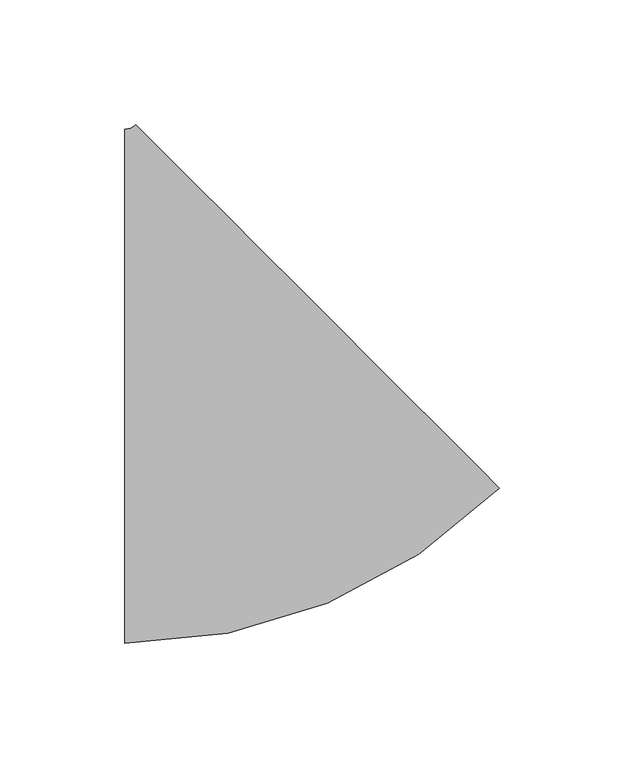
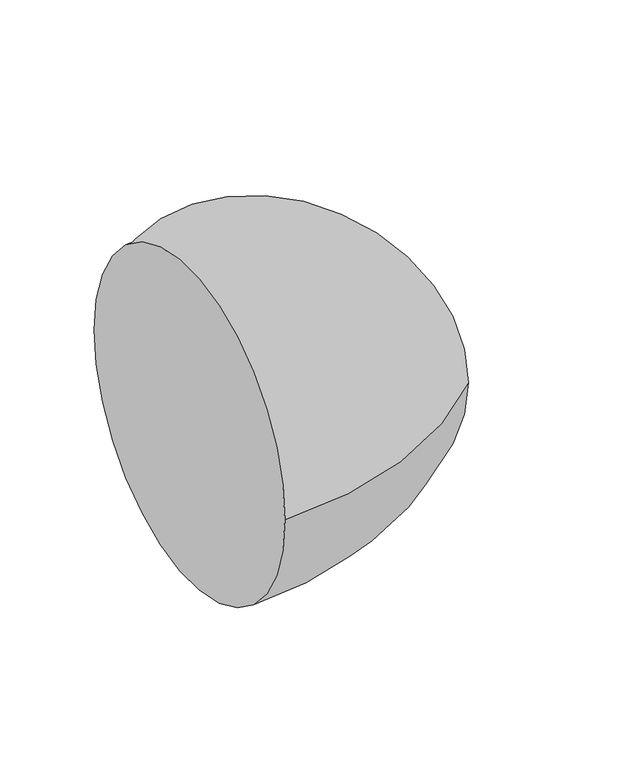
"""IFC4 building model written with IfcOpenShell, lengths in millimetres: pipe fitting geometry, M_Codo - Genérico : Estándar."""

from ifc_helpers import new_model, si_unit, point, frame, origin, place, context, project, spatial, circle_curve, ellipse_curve, trimmed, source, transform, mapped, element, save
from ifc_brep_helpers import plane_surface, revolved_surface, advanced_brep


def pipe_fitting_7e9b3de7(model_context):
    return source(origin(), model_context, "Body", "AdvancedBrep", [
        advanced_brep(
        [(-45.3694714, -103.1875, 0.0), (-45.3694714, 103.1875, 0.0), (105.0440829, -40.8875255, 0.0), (-40.8795146, 105.0472007, 0.0)],
        [
            (0, 1, circle_curve(frame((-45.3694714, 0.0, 0.0), z_axis=(-1.0, 0.0, 0.0), x_axis=(0.0, 1.0, 0.0)), 103.1875)),
            (1, 0, circle_curve(frame((-45.3694714, 0.0, 0.0), z_axis=(-1.0, 0.0, 0.0), x_axis=(0.0, 1.0, 0.0)), 103.1875)),
            (2, 3, circle_curve(frame((32.0822842, 32.0798376, 0.0), z_axis=(0.7071337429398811, 0.7070798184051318, 0.0), x_axis=(-0.7070798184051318, 0.7071337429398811, 0.0)), 103.1875)),
            (3, 2, circle_curve(frame((32.0822842, 32.0798376, 0.0), z_axis=(0.7071337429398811, 0.7070798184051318, 0.0), x_axis=(-0.7070798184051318, 0.7071337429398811, 0.0)), 103.1875)),
            (3, 1, circle_curve(frame((-45.3694714, 109.5375, 0.0), z_axis=(0.0, 0.0, -1.0), x_axis=(0.0, -1.0, 0.0)), 6.35)),
            (0, 2, circle_curve(frame((-45.3694714, 109.5375, 0.0), z_axis=(0.0, 0.0, 1.0), x_axis=(0.0, -1.0, 0.0)), 212.725)),
        ],
        [
            plane_surface(frame((-45.3694714, 0.0, 0.0), z_axis=(-1.0, 0.0, 0.0), x_axis=(0.0, 0.0, 1.0))),
            plane_surface(frame((32.0822842, 32.0798376, 0.0), z_axis=(0.7071337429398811, 0.7070798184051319, 0.0), x_axis=(0.0, 0.0, 1.0))),
            revolved_surface(trimmed(ellipse_curve(frame((-45.3694714, 0.0, 0.0), z_axis=(-1.0, 0.0, 0.0), x_axis=(0.0, 1.0, 0.0)), 103.1875, 103.1875), [point((-45.3694714, -103.1875, 0.0))], [point((-45.3694714, 103.1875, 0.0))], True, "CARTESIAN"), (-45.3694714, 109.5375, 0.0), (0.0, 0.0, 1.0)),
            revolved_surface(trimmed(ellipse_curve(frame((-45.3694714, 0.0, 0.0), z_axis=(-1.0, 0.0, 0.0), x_axis=(0.0, 1.0, 0.0)), 103.1875, 103.1875), [point((-45.3694714, 103.1875, 0.0))], [point((-45.3694714, -103.1875, 0.0))], True, "CARTESIAN"), (-45.3694714, 109.5375, 0.0), (0.0, 0.0, 1.0)),
        ],
        [
            (0, [[1, 2]]),
            (1, [[3, 4]]),
            (2, [[5, -1, 6, -4]]),
            (3, [[-6, -2, -5, -3]]),
        ],
    ),
    ])


if __name__ == "__main__":
    model = new_model("IFC4")
    model_context = context("Model", 3, world=origin())
    ifc_project = project(units=[si_unit("LENGTHUNIT", "METRE", prefix="MILLI")], contexts=[model_context])
    site = spatial("IfcSite", under=ifc_project)
    building = spatial("IfcBuilding", under=site)
    placement = place(None, origin())
    pipe_fitting_shape = pipe_fitting_7e9b3de7(model_context)
    element("IfcPipeFitting", 1, ObjectType="M_Codo - Genérico : Estándar", at=placement, inside=building, context=model_context, shape_type="MappedRepresentation", body=[
        mapped(pipe_fitting_shape, transform((0.0, 0.0, 0.0), x_axis=(1.0, 0.0, 0.0), y_axis=(0.0, 1.0, 0.0), z_axis=(0.0, 0.0, 1.0))),
    ])
    save(model, "model.ifc")
